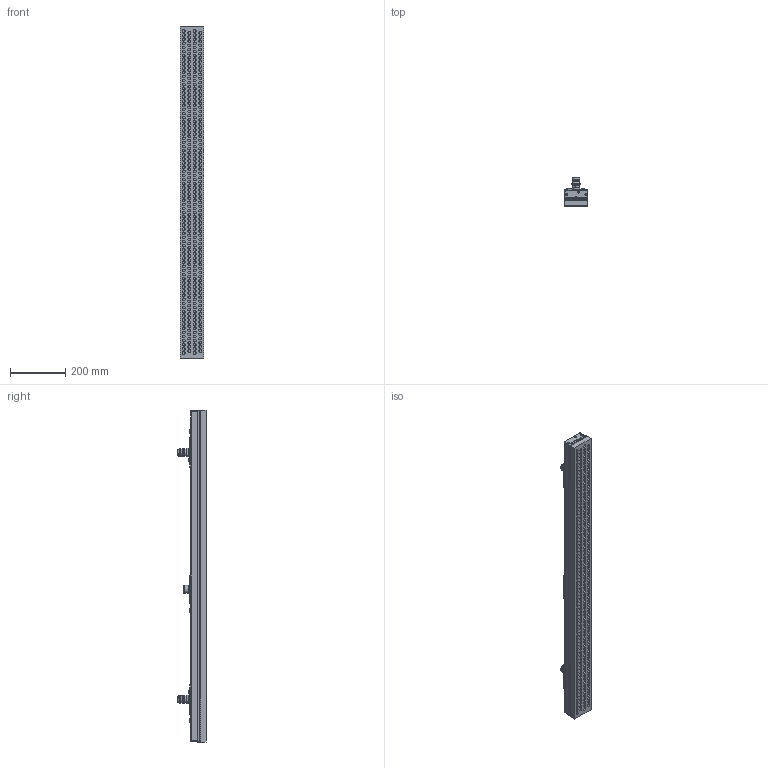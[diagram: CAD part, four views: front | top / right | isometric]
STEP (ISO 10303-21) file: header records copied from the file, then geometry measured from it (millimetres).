
FILE_DESCRIPTION (( 'STEP AP214' ), '1' );
FILE_NAME ('9671 120 017.STEP', '2012-09-11T06:42:45', ( 'cad' ), ( 'Microsoft' ), 'SwSTEP 2.0', 'SolidWorks 2012', '' );
FILE_SCHEMA (( 'AUTOMOTIVE_DESIGN' ));
Length unit declared in the file: millimetre
Products named in the file (1): 9671 120 017
Bounding box: 86 x 102 x 1206 mm (x, y, z)
Volume: 5134768.4 mm3; surface area: 638638.5 mm2
Topology: 1 solids, 1 shells, 1434 faces, 3021 edges, 1962 vertices
Faces by surface type: cylinder 742, plane 564, cone 76, torus 32, bspline 20
Entity records: 52425 total; most frequent: CARTESIAN_POINT 7990, DIRECTION 7399, ORIENTED_EDGE 6042, AXIS2_PLACEMENT_3D 3091, EDGE_CURVE 3021, VERTEX_POINT 1962, EDGE_LOOP 1811, CIRCLE 1676
